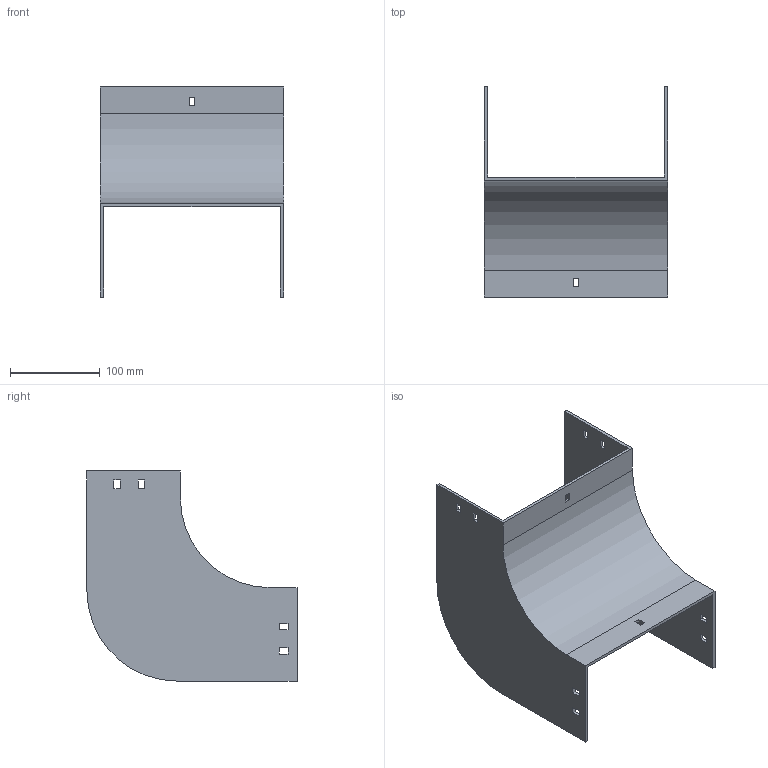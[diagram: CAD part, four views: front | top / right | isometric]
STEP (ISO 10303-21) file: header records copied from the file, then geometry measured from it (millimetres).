
FILE_DESCRIPTION (( 'STEP AP214' ), '1' );
FILE_NAME ('33F1D200.step', '2025-02-21T12:51:50', ( '' ), ( '' ), 'SwSTEP 2.0', 'SolidWorks 2023', '' );
FILE_SCHEMA (( 'AUTOMOTIVE_DESIGN' ));
Length unit declared in the file: millimetre
Products named in the file (1): 33F1D200
Bounding box: 204 x 234 x 234 mm (x, y, z)
Volume: 414194.3 mm3; surface area: 243642.8 mm2
Topology: 1 solids, 1 shells, 58 faces, 168 edges, 112 vertices
Faces by surface type: plane 54, cylinder 4
Entity records: 1943 total; most frequent: CARTESIAN_POINT 339, ORIENTED_EDGE 336, DIRECTION 294, EDGE_CURVE 168, LINE 160, VECTOR 160, VERTEX_POINT 112, EDGE_LOOP 78
